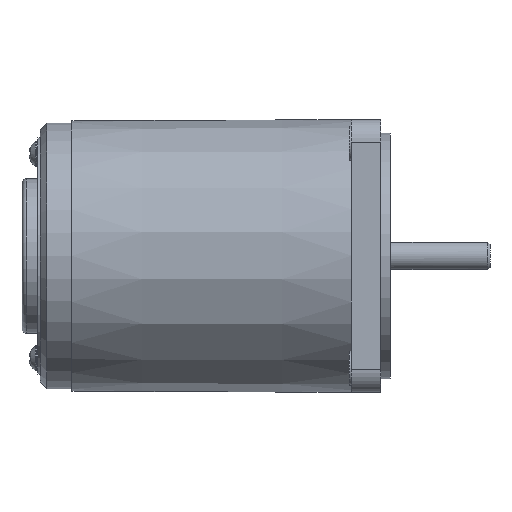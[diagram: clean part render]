
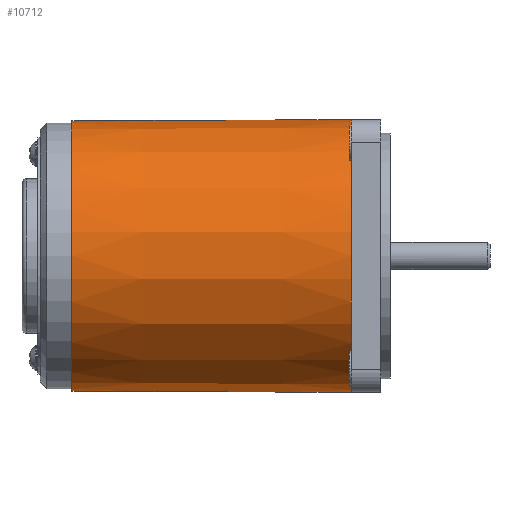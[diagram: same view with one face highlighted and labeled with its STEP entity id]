
A CAD part, top view. The second image highlights one B-rep face of the part: STEP entity #10712.
In plain terms, the highlighted conical face has half-angle 0.233 degrees and reference radius 29.875 mm.
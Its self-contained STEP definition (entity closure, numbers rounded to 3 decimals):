
#41=(
BOUNDED_CURVE()
B_SPLINE_CURVE(2,(#17865,#17866,#17867),.UNSPECIFIED.,.F.,.F.)
B_SPLINE_CURVE_WITH_KNOTS((3,3),(0.,4.2),.UNSPECIFIED.)
CURVE()
GEOMETRIC_REPRESENTATION_ITEM()
RATIONAL_B_SPLINE_CURVE((1.,1.,1.))
REPRESENTATION_ITEM('')
);
#42=(
BOUNDED_CURVE()
B_SPLINE_CURVE(2,(#17951,#17952,#17953),.UNSPECIFIED.,.F.,.F.)
B_SPLINE_CURVE_WITH_KNOTS((3,3),(0.,4.2),.UNSPECIFIED.)
CURVE()
GEOMETRIC_REPRESENTATION_ITEM()
RATIONAL_B_SPLINE_CURVE((1.,1.,1.))
REPRESENTATION_ITEM('')
);
#1918=CONICAL_SURFACE('',#11726,29.875,0.233);
#2178=FACE_BOUND('',#3354,.T.);
#2700=FACE_OUTER_BOUND('',#3353,.T.);
#3353=EDGE_LOOP('',(#8726));
#3354=EDGE_LOOP('',(#8727,#8728,#8729,#8730,#8731,#8732,#8733,#8734,#8735));
#3941=CIRCLE('',#11718,29.829);
#3944=CIRCLE('',#11723,29.829);
#3946=CIRCLE('',#11725,29.829);
#3947=CIRCLE('',#11727,29.75);
#3948=CIRCLE('',#11728,30.);
#3949=CIRCLE('',#11729,30.);
#3950=CIRCLE('',#11730,30.);
#3951=CIRCLE('',#11731,30.);
#4765=VERTEX_POINT('',#17754);
#4766=VERTEX_POINT('',#17761);
#4771=VERTEX_POINT('',#17861);
#4772=VERTEX_POINT('',#17863);
#4775=VERTEX_POINT('',#17948);
#4776=VERTEX_POINT('',#17950);
#4777=VERTEX_POINT('',#17956);
#4778=VERTEX_POINT('',#17958);
#4779=VERTEX_POINT('',#17960);
#4780=VERTEX_POINT('',#17962);
#6126=EDGE_CURVE('',#4766,#4765,#3941,.T.);
#6136=EDGE_CURVE('',#4772,#4766,#3944,.T.);
#6137=EDGE_CURVE('',#4771,#4772,#41,.T.);
#6143=EDGE_CURVE('',#4776,#4775,#42,.T.);
#6144=EDGE_CURVE('',#4765,#4776,#3946,.T.);
#6145=EDGE_CURVE('',#4777,#4777,#3947,.T.);
#6146=EDGE_CURVE('',#4778,#4775,#3948,.T.);
#6147=EDGE_CURVE('',#4779,#4778,#3949,.T.);
#6148=EDGE_CURVE('',#4780,#4779,#3950,.T.);
#6149=EDGE_CURVE('',#4771,#4780,#3951,.T.);
#8726=ORIENTED_EDGE('',*,*,#6145,.T.);
#8727=ORIENTED_EDGE('',*,*,#6137,.T.);
#8728=ORIENTED_EDGE('',*,*,#6136,.T.);
#8729=ORIENTED_EDGE('',*,*,#6126,.T.);
#8730=ORIENTED_EDGE('',*,*,#6144,.T.);
#8731=ORIENTED_EDGE('',*,*,#6143,.T.);
#8732=ORIENTED_EDGE('',*,*,#6146,.F.);
#8733=ORIENTED_EDGE('',*,*,#6147,.F.);
#8734=ORIENTED_EDGE('',*,*,#6148,.F.);
#8735=ORIENTED_EDGE('',*,*,#6149,.F.);
#10712=ADVANCED_FACE('',(#2700,#2178),#1918,.T.);
#11718=AXIS2_PLACEMENT_3D('',#17762,#14349,#14350);
#11723=AXIS2_PLACEMENT_3D('',#17864,#14362,#14363);
#11725=AXIS2_PLACEMENT_3D('',#17954,#14368,#14369);
#11726=AXIS2_PLACEMENT_3D('',#17955,#14370,#14371);
#11727=AXIS2_PLACEMENT_3D('',#17957,#14372,#14373);
#11728=AXIS2_PLACEMENT_3D('',#17959,#14374,#14375);
#11729=AXIS2_PLACEMENT_3D('',#17961,#14376,#14377);
#11730=AXIS2_PLACEMENT_3D('',#17963,#14378,#14379);
#11731=AXIS2_PLACEMENT_3D('',#17964,#14380,#14381);
#14349=DIRECTION('center_axis',(-1.,0.,0.));
#14350=DIRECTION('ref_axis',(0.,1.,0.));
#14362=DIRECTION('center_axis',(-1.,0.,0.));
#14363=DIRECTION('ref_axis',(0.,1.,0.));
#14368=DIRECTION('center_axis',(-1.,0.,0.));
#14369=DIRECTION('ref_axis',(0.,1.,0.));
#14370=DIRECTION('center_axis',(1.,0.,0.));
#14371=DIRECTION('ref_axis',(0.,1.,0.));
#14372=DIRECTION('center_axis',(1.,0.,0.));
#14373=DIRECTION('ref_axis',(0.,1.,0.));
#14374=DIRECTION('center_axis',(1.,0.,0.));
#14375=DIRECTION('ref_axis',(0.,1.,0.));
#14376=DIRECTION('center_axis',(1.,0.,0.));
#14377=DIRECTION('ref_axis',(0.,1.,0.));
#14378=DIRECTION('center_axis',(1.,0.,0.));
#14379=DIRECTION('ref_axis',(0.,1.,0.));
#14380=DIRECTION('center_axis',(1.,0.,0.));
#14381=DIRECTION('ref_axis',(0.,1.,0.));
#17754=CARTESIAN_POINT('',(26.5,-21.289,-20.894));
#17761=CARTESIAN_POINT('',(26.5,21.289,-20.894));
#17762=CARTESIAN_POINT('Origin',(26.5,0.,0.));
#17861=CARTESIAN_POINT('',(68.5,21.782,-20.628));
#17863=CARTESIAN_POINT('',(26.5,21.769,-20.393));
#17864=CARTESIAN_POINT('Origin',(26.5,0.,0.));
#17865=CARTESIAN_POINT('Ctrl Pts',(68.5,21.782,-20.628));
#17866=CARTESIAN_POINT('Ctrl Pts',(47.386,21.776,-20.51));
#17867=CARTESIAN_POINT('Ctrl Pts',(26.5,21.769,-20.393));
#17948=CARTESIAN_POINT('',(68.5,-21.782,-20.628));
#17950=CARTESIAN_POINT('',(26.5,-21.769,-20.393));
#17951=CARTESIAN_POINT('Ctrl Pts',(26.5,-21.769,-20.393));
#17952=CARTESIAN_POINT('Ctrl Pts',(47.386,-21.776,-20.51));
#17953=CARTESIAN_POINT('Ctrl Pts',(68.5,-21.782,-20.628));
#17954=CARTESIAN_POINT('Origin',(26.5,0.,0.));
#17955=CARTESIAN_POINT('Origin',(37.75,0.,0.));
#17956=CARTESIAN_POINT('',(7.,29.75,0.));
#17957=CARTESIAN_POINT('Origin',(7.,0.,0.));
#17958=CARTESIAN_POINT('',(68.5,-30.,0.));
#17959=CARTESIAN_POINT('Origin',(68.5,0.,0.));
#17960=CARTESIAN_POINT('',(68.5,0.,30.));
#17961=CARTESIAN_POINT('Origin',(68.5,0.,0.));
#17962=CARTESIAN_POINT('',(68.5,30.,0.));
#17963=CARTESIAN_POINT('Origin',(68.5,0.,0.));
#17964=CARTESIAN_POINT('Origin',(68.5,0.,0.));
